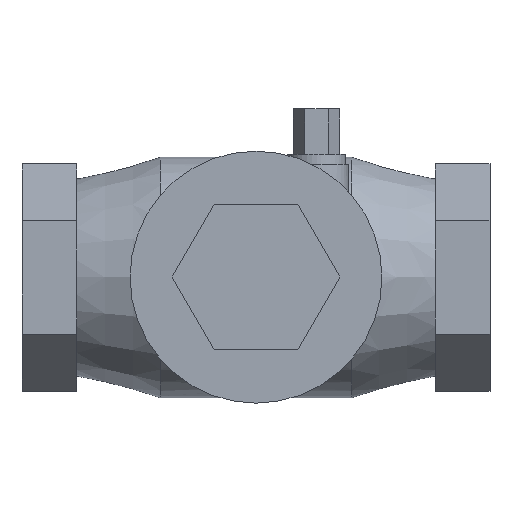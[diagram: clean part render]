
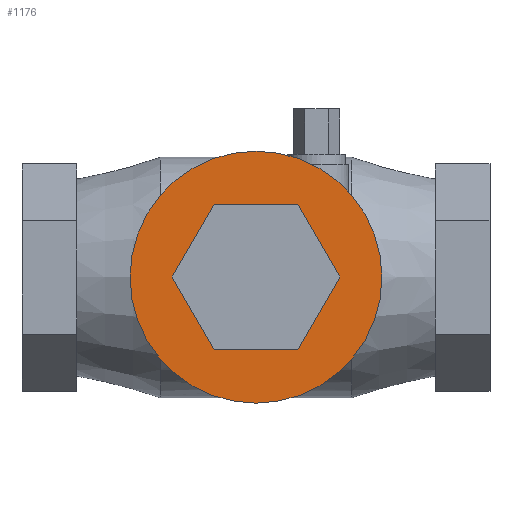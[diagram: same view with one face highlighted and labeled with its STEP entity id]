
A CAD part, top view. The second image highlights one B-rep face of the part: STEP entity #1176.
In plain terms, the highlighted planar face has unit normal (0, 0, 1).
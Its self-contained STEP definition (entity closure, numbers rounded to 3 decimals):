
#1176 = ADVANCED_FACE('',(#1177,#1217),#1190,.T.);
#1177 = FACE_BOUND('',#1178,.T.);
#1178 = EDGE_LOOP('',(#1179));
#1179 = ORIENTED_EDGE('',*,*,#1180,.F.);
#1180 = EDGE_CURVE('',#1181,#1181,#1183,.T.);
#1181 = VERTEX_POINT('',#1182);
#1182 = CARTESIAN_POINT('',(2.692,0.,1.825));
#1183 = SURFACE_CURVE('',#1184,(#1189,#1205),.PCURVE_S1.);
#1184 = CIRCLE('',#1185,0.942);
#1185 = AXIS2_PLACEMENT_3D('',#1186,#1187,#1188);
#1186 = CARTESIAN_POINT('',(1.75,0.,1.825));
#1187 = DIRECTION('',(0.,0.,-1.));
#1188 = DIRECTION('',(1.,0.,0.));
#1189 = PCURVE('',#1190,#1195);
#1190 = PLANE('',#1191);
#1191 = AXIS2_PLACEMENT_3D('',#1192,#1193,#1194);
#1192 = CARTESIAN_POINT('',(1.75,0.,1.825));
#1193 = DIRECTION('',(0.,0.,1.));
#1194 = DIRECTION('',(1.,0.,-0.));
#1195 = DEFINITIONAL_REPRESENTATION('',(#1196),#1204);
#1196 = ( BOUNDED_CURVE() B_SPLINE_CURVE(2,(#1197,#1198,#1199,#1200,
#1201,#1202,#1203),.UNSPECIFIED.,.T.,.F.) B_SPLINE_CURVE_WITH_KNOTS((1,2
    ,2,2,2,1),(-2.094,0.,2.094,4.189,
6.283,8.378),.UNSPECIFIED.) CURVE() 
GEOMETRIC_REPRESENTATION_ITEM() RATIONAL_B_SPLINE_CURVE((1.,0.5,1.,0.5,
1.,0.5,1.)) REPRESENTATION_ITEM('') );
#1197 = CARTESIAN_POINT('',(0.942,0.));
#1198 = CARTESIAN_POINT('',(0.942,-1.632));
#1199 = CARTESIAN_POINT('',(-0.471,-0.816));
#1200 = CARTESIAN_POINT('',(-1.884,0.));
#1201 = CARTESIAN_POINT('',(-0.471,0.816));
#1202 = CARTESIAN_POINT('',(0.942,1.632));
#1203 = CARTESIAN_POINT('',(0.942,0.));
#1204 = ( GEOMETRIC_REPRESENTATION_CONTEXT(2) 
PARAMETRIC_REPRESENTATION_CONTEXT() REPRESENTATION_CONTEXT('2D SPACE',''
  ) );
#1205 = PCURVE('',#1206,#1211);
#1206 = CYLINDRICAL_SURFACE('',#1207,0.942);
#1207 = AXIS2_PLACEMENT_3D('',#1208,#1209,#1210);
#1208 = CARTESIAN_POINT('',(1.75,0.,1.7));
#1209 = DIRECTION('',(0.,0.,1.));
#1210 = DIRECTION('',(1.,0.,-0.));
#1211 = DEFINITIONAL_REPRESENTATION('',(#1212),#1216);
#1212 = LINE('',#1213,#1214);
#1213 = CARTESIAN_POINT('',(6.283,0.125));
#1214 = VECTOR('',#1215,1.);
#1215 = DIRECTION('',(-1.,0.));
#1216 = ( GEOMETRIC_REPRESENTATION_CONTEXT(2) 
PARAMETRIC_REPRESENTATION_CONTEXT() REPRESENTATION_CONTEXT('2D SPACE',''
  ) );
#1217 = FACE_BOUND('',#1218,.T.);
#1218 = EDGE_LOOP('',(#1219,#1249,#1277,#1305,#1333,#1361));
#1219 = ORIENTED_EDGE('',*,*,#1220,.F.);
#1220 = EDGE_CURVE('',#1221,#1223,#1225,.T.);
#1221 = VERTEX_POINT('',#1222);
#1222 = CARTESIAN_POINT('',(1.436,-0.543,1.825));
#1223 = VERTEX_POINT('',#1224);
#1224 = CARTESIAN_POINT('',(2.064,-0.543,1.825));
#1225 = SURFACE_CURVE('',#1226,(#1230,#1237),.PCURVE_S1.);
#1226 = LINE('',#1227,#1228);
#1227 = CARTESIAN_POINT('',(1.436,-0.543,1.825));
#1228 = VECTOR('',#1229,1.);
#1229 = DIRECTION('',(1.,0.,0.));
#1230 = PCURVE('',#1190,#1231);
#1231 = DEFINITIONAL_REPRESENTATION('',(#1232),#1236);
#1232 = LINE('',#1233,#1234);
#1233 = CARTESIAN_POINT('',(-0.314,-0.543));
#1234 = VECTOR('',#1235,1.);
#1235 = DIRECTION('',(1.,0.));
#1236 = ( GEOMETRIC_REPRESENTATION_CONTEXT(2) 
PARAMETRIC_REPRESENTATION_CONTEXT() REPRESENTATION_CONTEXT('2D SPACE',''
  ) );
#1237 = PCURVE('',#1238,#1243);
#1238 = PLANE('',#1239);
#1239 = AXIS2_PLACEMENT_3D('',#1240,#1241,#1242);
#1240 = CARTESIAN_POINT('',(1.75,-0.543,1.825));
#1241 = DIRECTION('',(0.,-1.,0.));
#1242 = DIRECTION('',(1.,0.,0.));
#1243 = DEFINITIONAL_REPRESENTATION('',(#1244),#1248);
#1244 = LINE('',#1245,#1246);
#1245 = CARTESIAN_POINT('',(-0.314,0.));
#1246 = VECTOR('',#1247,1.);
#1247 = DIRECTION('',(1.,0.));
#1248 = ( GEOMETRIC_REPRESENTATION_CONTEXT(2) 
PARAMETRIC_REPRESENTATION_CONTEXT() REPRESENTATION_CONTEXT('2D SPACE',''
  ) );
#1249 = ORIENTED_EDGE('',*,*,#1250,.F.);
#1250 = EDGE_CURVE('',#1251,#1221,#1253,.T.);
#1251 = VERTEX_POINT('',#1252);
#1252 = CARTESIAN_POINT('',(1.123,0.,1.825));
#1253 = SURFACE_CURVE('',#1254,(#1258,#1265),.PCURVE_S1.);
#1254 = LINE('',#1255,#1256);
#1255 = CARTESIAN_POINT('',(1.123,0.,1.825));
#1256 = VECTOR('',#1257,1.);
#1257 = DIRECTION('',(0.5,-0.866,0.));
#1258 = PCURVE('',#1190,#1259);
#1259 = DEFINITIONAL_REPRESENTATION('',(#1260),#1264);
#1260 = LINE('',#1261,#1262);
#1261 = CARTESIAN_POINT('',(-0.627,0.));
#1262 = VECTOR('',#1263,1.);
#1263 = DIRECTION('',(0.5,-0.866));
#1264 = ( GEOMETRIC_REPRESENTATION_CONTEXT(2) 
PARAMETRIC_REPRESENTATION_CONTEXT() REPRESENTATION_CONTEXT('2D SPACE',''
  ) );
#1265 = PCURVE('',#1266,#1271);
#1266 = PLANE('',#1267);
#1267 = AXIS2_PLACEMENT_3D('',#1268,#1269,#1270);
#1268 = CARTESIAN_POINT('',(1.28,-0.272,1.825));
#1269 = DIRECTION('',(-0.866,-0.5,0.));
#1270 = DIRECTION('',(0.5,-0.866,0.));
#1271 = DEFINITIONAL_REPRESENTATION('',(#1272),#1276);
#1272 = LINE('',#1273,#1274);
#1273 = CARTESIAN_POINT('',(-0.314,0.));
#1274 = VECTOR('',#1275,1.);
#1275 = DIRECTION('',(1.,0.));
#1276 = ( GEOMETRIC_REPRESENTATION_CONTEXT(2) 
PARAMETRIC_REPRESENTATION_CONTEXT() REPRESENTATION_CONTEXT('2D SPACE',''
  ) );
#1277 = ORIENTED_EDGE('',*,*,#1278,.F.);
#1278 = EDGE_CURVE('',#1279,#1251,#1281,.T.);
#1279 = VERTEX_POINT('',#1280);
#1280 = CARTESIAN_POINT('',(1.436,0.543,1.825));
#1281 = SURFACE_CURVE('',#1282,(#1286,#1293),.PCURVE_S1.);
#1282 = LINE('',#1283,#1284);
#1283 = CARTESIAN_POINT('',(1.436,0.543,1.825));
#1284 = VECTOR('',#1285,1.);
#1285 = DIRECTION('',(-0.5,-0.866,0.));
#1286 = PCURVE('',#1190,#1287);
#1287 = DEFINITIONAL_REPRESENTATION('',(#1288),#1292);
#1288 = LINE('',#1289,#1290);
#1289 = CARTESIAN_POINT('',(-0.314,0.543));
#1290 = VECTOR('',#1291,1.);
#1291 = DIRECTION('',(-0.5,-0.866));
#1292 = ( GEOMETRIC_REPRESENTATION_CONTEXT(2) 
PARAMETRIC_REPRESENTATION_CONTEXT() REPRESENTATION_CONTEXT('2D SPACE',''
  ) );
#1293 = PCURVE('',#1294,#1299);
#1294 = PLANE('',#1295);
#1295 = AXIS2_PLACEMENT_3D('',#1296,#1297,#1298);
#1296 = CARTESIAN_POINT('',(1.28,0.272,1.825));
#1297 = DIRECTION('',(-0.866,0.5,0.));
#1298 = DIRECTION('',(-0.5,-0.866,0.));
#1299 = DEFINITIONAL_REPRESENTATION('',(#1300),#1304);
#1300 = LINE('',#1301,#1302);
#1301 = CARTESIAN_POINT('',(-0.314,0.));
#1302 = VECTOR('',#1303,1.);
#1303 = DIRECTION('',(1.,0.));
#1304 = ( GEOMETRIC_REPRESENTATION_CONTEXT(2) 
PARAMETRIC_REPRESENTATION_CONTEXT() REPRESENTATION_CONTEXT('2D SPACE',''
  ) );
#1305 = ORIENTED_EDGE('',*,*,#1306,.F.);
#1306 = EDGE_CURVE('',#1307,#1279,#1309,.T.);
#1307 = VERTEX_POINT('',#1308);
#1308 = CARTESIAN_POINT('',(2.064,0.543,1.825));
#1309 = SURFACE_CURVE('',#1310,(#1314,#1321),.PCURVE_S1.);
#1310 = LINE('',#1311,#1312);
#1311 = CARTESIAN_POINT('',(2.064,0.543,1.825));
#1312 = VECTOR('',#1313,1.);
#1313 = DIRECTION('',(-1.,0.,0.));
#1314 = PCURVE('',#1190,#1315);
#1315 = DEFINITIONAL_REPRESENTATION('',(#1316),#1320);
#1316 = LINE('',#1317,#1318);
#1317 = CARTESIAN_POINT('',(0.314,0.543));
#1318 = VECTOR('',#1319,1.);
#1319 = DIRECTION('',(-1.,0.));
#1320 = ( GEOMETRIC_REPRESENTATION_CONTEXT(2) 
PARAMETRIC_REPRESENTATION_CONTEXT() REPRESENTATION_CONTEXT('2D SPACE',''
  ) );
#1321 = PCURVE('',#1322,#1327);
#1322 = PLANE('',#1323);
#1323 = AXIS2_PLACEMENT_3D('',#1324,#1325,#1326);
#1324 = CARTESIAN_POINT('',(1.75,0.543,1.825));
#1325 = DIRECTION('',(0.,1.,0.));
#1326 = DIRECTION('',(-1.,0.,0.));
#1327 = DEFINITIONAL_REPRESENTATION('',(#1328),#1332);
#1328 = LINE('',#1329,#1330);
#1329 = CARTESIAN_POINT('',(-0.314,0.));
#1330 = VECTOR('',#1331,1.);
#1331 = DIRECTION('',(1.,0.));
#1332 = ( GEOMETRIC_REPRESENTATION_CONTEXT(2) 
PARAMETRIC_REPRESENTATION_CONTEXT() REPRESENTATION_CONTEXT('2D SPACE',''
  ) );
#1333 = ORIENTED_EDGE('',*,*,#1334,.F.);
#1334 = EDGE_CURVE('',#1335,#1307,#1337,.T.);
#1335 = VERTEX_POINT('',#1336);
#1336 = CARTESIAN_POINT('',(2.377,0.,1.825));
#1337 = SURFACE_CURVE('',#1338,(#1342,#1349),.PCURVE_S1.);
#1338 = LINE('',#1339,#1340);
#1339 = CARTESIAN_POINT('',(2.377,0.,1.825));
#1340 = VECTOR('',#1341,1.);
#1341 = DIRECTION('',(-0.5,0.866,0.));
#1342 = PCURVE('',#1190,#1343);
#1343 = DEFINITIONAL_REPRESENTATION('',(#1344),#1348);
#1344 = LINE('',#1345,#1346);
#1345 = CARTESIAN_POINT('',(0.627,0.));
#1346 = VECTOR('',#1347,1.);
#1347 = DIRECTION('',(-0.5,0.866));
#1348 = ( GEOMETRIC_REPRESENTATION_CONTEXT(2) 
PARAMETRIC_REPRESENTATION_CONTEXT() REPRESENTATION_CONTEXT('2D SPACE',''
  ) );
#1349 = PCURVE('',#1350,#1355);
#1350 = PLANE('',#1351);
#1351 = AXIS2_PLACEMENT_3D('',#1352,#1353,#1354);
#1352 = CARTESIAN_POINT('',(2.22,0.272,1.825));
#1353 = DIRECTION('',(0.866,0.5,0.));
#1354 = DIRECTION('',(-0.5,0.866,0.));
#1355 = DEFINITIONAL_REPRESENTATION('',(#1356),#1360);
#1356 = LINE('',#1357,#1358);
#1357 = CARTESIAN_POINT('',(-0.314,0.));
#1358 = VECTOR('',#1359,1.);
#1359 = DIRECTION('',(1.,0.));
#1360 = ( GEOMETRIC_REPRESENTATION_CONTEXT(2) 
PARAMETRIC_REPRESENTATION_CONTEXT() REPRESENTATION_CONTEXT('2D SPACE',''
  ) );
#1361 = ORIENTED_EDGE('',*,*,#1362,.F.);
#1362 = EDGE_CURVE('',#1223,#1335,#1363,.T.);
#1363 = SURFACE_CURVE('',#1364,(#1368,#1375),.PCURVE_S1.);
#1364 = LINE('',#1365,#1366);
#1365 = CARTESIAN_POINT('',(2.064,-0.543,1.825));
#1366 = VECTOR('',#1367,1.);
#1367 = DIRECTION('',(0.5,0.866,0.));
#1368 = PCURVE('',#1190,#1369);
#1369 = DEFINITIONAL_REPRESENTATION('',(#1370),#1374);
#1370 = LINE('',#1371,#1372);
#1371 = CARTESIAN_POINT('',(0.314,-0.543));
#1372 = VECTOR('',#1373,1.);
#1373 = DIRECTION('',(0.5,0.866));
#1374 = ( GEOMETRIC_REPRESENTATION_CONTEXT(2) 
PARAMETRIC_REPRESENTATION_CONTEXT() REPRESENTATION_CONTEXT('2D SPACE',''
  ) );
#1375 = PCURVE('',#1376,#1381);
#1376 = PLANE('',#1377);
#1377 = AXIS2_PLACEMENT_3D('',#1378,#1379,#1380);
#1378 = CARTESIAN_POINT('',(2.22,-0.272,1.825));
#1379 = DIRECTION('',(0.866,-0.5,0.));
#1380 = DIRECTION('',(0.5,0.866,0.));
#1381 = DEFINITIONAL_REPRESENTATION('',(#1382),#1386);
#1382 = LINE('',#1383,#1384);
#1383 = CARTESIAN_POINT('',(-0.314,0.));
#1384 = VECTOR('',#1385,1.);
#1385 = DIRECTION('',(1.,0.));
#1386 = ( GEOMETRIC_REPRESENTATION_CONTEXT(2) 
PARAMETRIC_REPRESENTATION_CONTEXT() REPRESENTATION_CONTEXT('2D SPACE',''
  ) );
